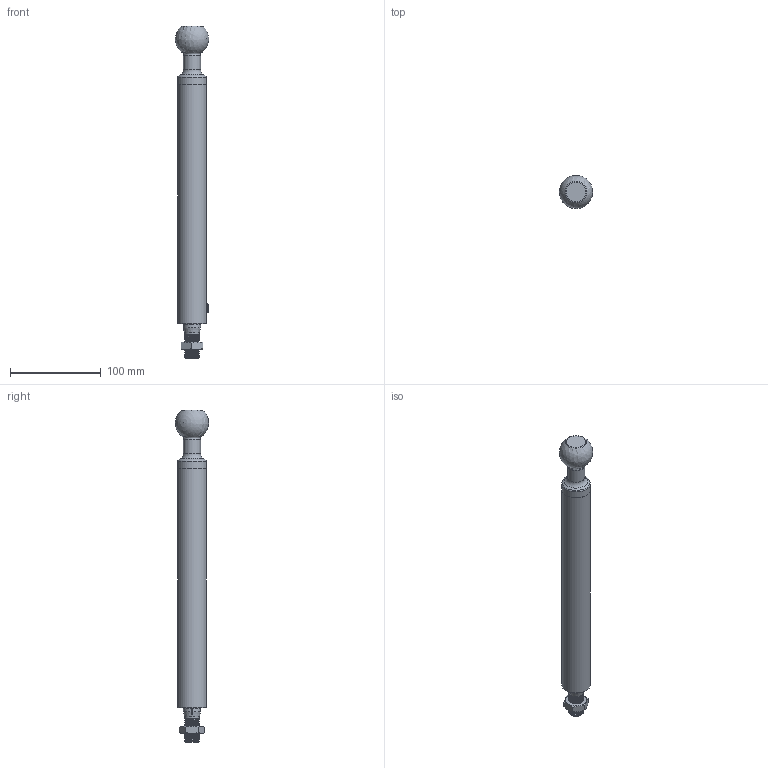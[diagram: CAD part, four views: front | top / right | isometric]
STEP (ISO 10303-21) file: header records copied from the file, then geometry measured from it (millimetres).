
FILE_DESCRIPTION(/* description */ (''),/* implementation_level */ '2;1');
FILE_NAME(/* name */ 'C:\Users\owner\Desktop\HDPL-POSTS_3D_stp\HDPL-TPOST8IN-THD.stp',/* time_stamp */ '2017-10-02T09:29:39-04:00',/* author */ ('owner'),/* organization */ (''),/* preprocessor_version */ 'ST-DEVELOPER v16.5',/* originating_system */ 'Autodesk Inventor 2017',/* authorisation */ '');
FILE_SCHEMA (('CONFIG_CONTROL_DESIGN'));
Length unit declared in the file: inch
Products named in the file (7): PL-HDTPOST8IN-THD; 60072; 60065; 60067; #92775; 60075; #90710
Assembly tree (6 placements, depth 2):
  PL-HDTPOST8IN-THD
    60072
    60065
    60067
    #92775
    60075
    #90710
Bounding box: 36.58 x 36.54 x 365.54 mm (x, y, z)
Volume: 251073.3 mm3; surface area: 77522.4 mm2
Topology: 7 solids, 7 shells, 993 faces, 2660 edges, 1752 vertices
Faces by surface type: plane 413, bspline 413, cylinder 110, cone 35, torus 21, sphere 1
Full cylindrical faces by diameter (mm): 7 x1, 8.382 x1, 9.131 x1, 10.033 x1, 10.668 x1, 10.744 x1, 10.757 x2, 13.392 x2, 18.796 x1, 18.923 x1, 19.05 x1, 19.446 x1, 19.482 x1, 22.123 x1, 22.187 x1, 22.225 x2, 31.75 x2
Entity records: 47962 total; most frequent: CARTESIAN_POINT 26055, ORIENTED_EDGE 5072, DIRECTION 3331, EDGE_CURVE 2536, VERTEX_POINT 1702, LINE 1193, VECTOR 1193, EDGE_LOOP 1140
